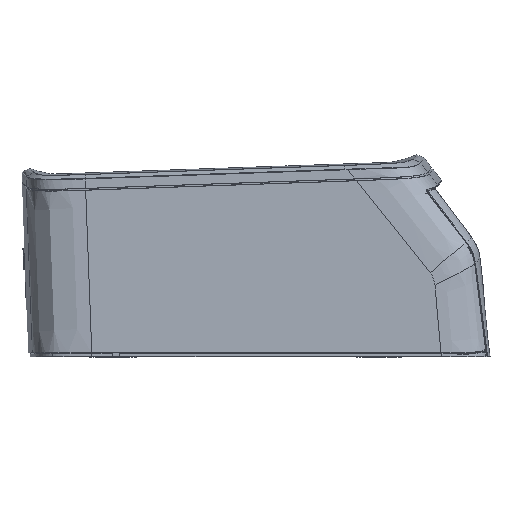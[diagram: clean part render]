
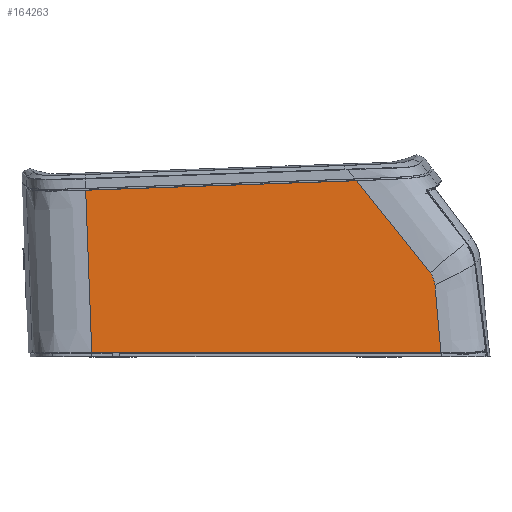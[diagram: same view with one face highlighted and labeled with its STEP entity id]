
A CAD part, left-side view. The second image highlights one B-rep face of the part: STEP entity #164263.
In plain terms, the highlighted planar face has unit normal (-0.999, 0, 0.044).
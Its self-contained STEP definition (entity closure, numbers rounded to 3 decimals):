
#237 = EDGE_CURVE ( 'NONE', #231776, #45707, #271129, .T. ) ;
#2196 = CARTESIAN_POINT ( 'NONE',  ( -156.21, 32.11, 75.863 ) ) ;
#2303 = ORIENTED_EDGE ( 'NONE', *, *, #4959, .F. ) ;
#2849 = AXIS2_PLACEMENT_3D ( 'NONE', #161823, #30256, #188572 ) ;
#3690 = LINE ( 'NONE', #57015, #108561 ) ;
#4959 = EDGE_CURVE ( 'NONE', #326942, #13087, #77893, .T. ) ;
#13087 = VERTEX_POINT ( 'NONE', #287525 ) ;
#16977 = CARTESIAN_POINT ( 'NONE',  ( -159.4, 279.103, 2.8 ) ) ;
#17235 = CARTESIAN_POINT ( 'NONE',  ( -156.8, 21.332, 62.339 ) ) ;
#18016 = CARTESIAN_POINT ( 'NONE',  ( -157.148, 18.551, 54.371 ) ) ;
#20770 = CARTESIAN_POINT ( 'NONE',  ( -156.991, 19.249, 57.967 ) ) ;
#30256 = DIRECTION ( 'NONE',  ( -0.999, 0., 0.044 ) ) ;
#40835 = EDGE_CURVE ( 'NONE', #326942, #231776, #209011, .T. ) ;
#45707 = VERTEX_POINT ( 'NONE', #320972 ) ;
#46133 = ORIENTED_EDGE ( 'NONE', *, *, #237, .T. ) ;
#48185 = PLANE ( 'NONE',  #2849 ) ;
#49581 = ORIENTED_EDGE ( 'NONE', *, *, #349818, .F. ) ;
#57015 = CARTESIAN_POINT ( 'NONE',  ( -157.148, 18.551, 54.371 ) ) ;
#72339 = CARTESIAN_POINT ( 'NONE',  ( -156.766, 21.902, 63.123 ) ) ;
#75614 = CARTESIAN_POINT ( 'NONE',  ( -157.603, 280.65, 43.958 ) ) ;
#77893 = B_SPLINE_CURVE_WITH_KNOTS ( 'NONE', 3,
 ( #185023, #133371, #343444, #241923 ),
 .UNSPECIFIED., .F., .F.,
 ( 4, 4 ),
 ( 0., 1. ),
 .UNSPECIFIED. ) ;
#82202 = CARTESIAN_POINT ( 'NONE',  ( -155.57, 43.85, 90.517 ) ) ;
#92235 = VERTEX_POINT ( 'NONE', #18016 ) ;
#92856 = ORIENTED_EDGE ( 'NONE', *, *, #115741, .F. ) ;
#102529 = CARTESIAN_POINT ( 'NONE',  ( -157.129, 18.59, 54.813 ) ) ;
#108561 = VECTOR ( 'NONE', #279340, 1000. ) ;
#108880 = CARTESIAN_POINT ( 'NONE',  ( -154.039, 71.953, 125.596 ) ) ;
#109218 = CARTESIAN_POINT ( 'NONE',  ( -159.4, 279.103, 2.8 ) ) ;
#112920 = B_SPLINE_CURVE_WITH_KNOTS ( 'NONE', 3,
 ( #152373, #72339, #17235, #234267, #180828, #289383, #20770, #129232, #346275, #102529, #134441 ),
 .UNSPECIFIED., .F., .F.,
 ( 4, 1, 1, 1, 1, 1, 1, 1, 4 ),
 ( 0., 0.125, 0.25, 0.375, 0.5, 0.625, 0.75, 0.875, 1. ),
 .UNSPECIFIED. ) ;
#115741 = EDGE_CURVE ( 'NONE', #92235, #45707, #3690, .T. ) ;
#129232 = CARTESIAN_POINT ( 'NONE',  ( -157.04, 18.941, 56.852 ) ) ;
#133371 = CARTESIAN_POINT ( 'NONE',  ( -153.904, 215.245, 128.675 ) ) ;
#134441 = CARTESIAN_POINT ( 'NONE',  ( -157.148, 18.551, 54.371 ) ) ;
#135562 = CARTESIAN_POINT ( 'NONE',  ( -153.808, 76.183, 130.876 ) ) ;
#142303 = CARTESIAN_POINT ( 'NONE',  ( -154.009, 283.735, 126.274 ) ) ;
#152115 = CARTESIAN_POINT ( 'NONE',  ( -154.009, 283.735, 126.274 ) ) ;
#152373 = CARTESIAN_POINT ( 'NONE',  ( -156.749, 22.219, 63.518 ) ) ;
#156023 = ORIENTED_EDGE ( 'NONE', *, *, #40835, .T. ) ;
#161823 = CARTESIAN_POINT ( 'NONE',  ( -159.4, 326.409, 2.8 ) ) ;
#164263 = ADVANCED_FACE ( 'NONE', ( #291891 ), #48185, .T. ) ;
#180828 = CARTESIAN_POINT ( 'NONE',  ( -156.898, 20.082, 60.112 ) ) ;
#185023 = CARTESIAN_POINT ( 'NONE',  ( -154.009, 283.735, 126.274 ) ) ;
#188572 = DIRECTION ( 'NONE',  ( 0., 1., 0. ) ) ;
#199061 = CARTESIAN_POINT ( 'NONE',  ( -156.584, 25.252, 67.304 ) ) ;
#201166 = VECTOR ( 'NONE', #217759, 1000. ) ;
#209011 = B_SPLINE_CURVE_WITH_KNOTS ( 'NONE', 3,
 ( #152115, #237514, #75614, #16977 ),
 .UNSPECIFIED., .F., .F.,
 ( 4, 4 ),
 ( 0., 1. ),
 .UNSPECIFIED. ) ;
#217759 = DIRECTION ( 'NONE',  ( 0., -1., 0. ) ) ;
#225781 = CARTESIAN_POINT ( 'NONE',  ( -156.403, 28.566, 71.441 ) ) ;
#231410 = CARTESIAN_POINT ( 'NONE',  ( -156.749, 22.219, 63.518 ) ) ;
#231776 = VERTEX_POINT ( 'NONE', #268543 ) ;
#234267 = CARTESIAN_POINT ( 'NONE',  ( -156.85, 20.641, 61.205 ) ) ;
#237514 = CARTESIAN_POINT ( 'NONE',  ( -155.806, 282.194, 85.116 ) ) ;
#241923 = CARTESIAN_POINT ( 'NONE',  ( -153.695, 78.266, 133.477 ) ) ;
#245874 = CARTESIAN_POINT ( 'NONE',  ( -153.695, 78.266, 133.477 ) ) ;
#245904 = EDGE_LOOP ( 'NONE', ( #46133, #92856, #345405, #49581, #2303, #156023 ) ) ;
#251394 = VERTEX_POINT ( 'NONE', #231410 ) ;
#268543 = CARTESIAN_POINT ( 'NONE',  ( -159.4, 279.103, 2.8 ) ) ;
#271129 = LINE ( 'NONE', #109218, #201166 ) ;
#272539 = CARTESIAN_POINT ( 'NONE',  ( -155.143, 51.693, 100.308 ) ) ;
#275174 = EDGE_CURVE ( 'NONE', #251394, #92235, #112920, .T. ) ;
#279340 = DIRECTION ( 'NONE',  ( -0.043, -0.087, -0.995 ) ) ;
#280911 = CARTESIAN_POINT ( 'NONE',  ( -156.749, 22.219, 63.518 ) ) ;
#287525 = CARTESIAN_POINT ( 'NONE',  ( -153.695, 78.266, 133.477 ) ) ;
#289383 = CARTESIAN_POINT ( 'NONE',  ( -156.944, 19.626, 59.043 ) ) ;
#291891 = FACE_OUTER_BOUND ( 'NONE', #245904, .T. ) ;
#299258 = CARTESIAN_POINT ( 'NONE',  ( -155.937, 37.116, 82.113 ) ) ;
#307608 = CARTESIAN_POINT ( 'NONE',  ( -156.695, 23.203, 64.746 ) ) ;
#320972 = CARTESIAN_POINT ( 'NONE',  ( -159.4, 14.039, 2.8 ) ) ;
#325916 = CARTESIAN_POINT ( 'NONE',  ( -154.747, 58.961, 109.379 ) ) ;
#326942 = VERTEX_POINT ( 'NONE', #142303 ) ;
#336023 = CARTESIAN_POINT ( 'NONE',  ( -154.391, 65.48, 117.517 ) ) ;
#343444 = CARTESIAN_POINT ( 'NONE',  ( -153.799, 146.756, 131.076 ) ) ;
#345405 = ORIENTED_EDGE ( 'NONE', *, *, #275174, .F. ) ;
#346275 = CARTESIAN_POINT ( 'NONE',  ( -157.092, 18.699, 55.666 ) ) ;
#349712 = B_SPLINE_CURVE_WITH_KNOTS ( 'NONE', 3,
 ( #245874, #135562, #108880, #336023, #325916, #272539, #82202, #299258, #2196, #225781, #199061, #307608, #280911 ),
 .UNSPECIFIED., .F., .F.,
 ( 4, 1, 1, 1, 1, 1, 1, 1, 1, 1, 4 ),
 ( 0., 0.106, 0.211, 0.317, 0.422, 0.567, 0.711, 0.783, 0.856, 0.928, 1. ),
 .UNSPECIFIED. ) ;
#349818 = EDGE_CURVE ( 'NONE', #13087, #251394, #349712, .T. ) ;
